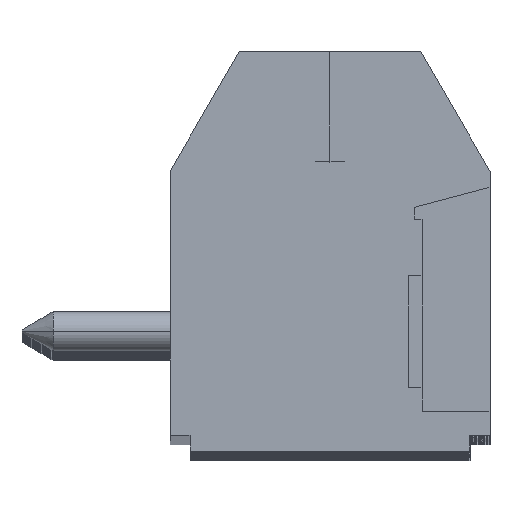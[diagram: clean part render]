
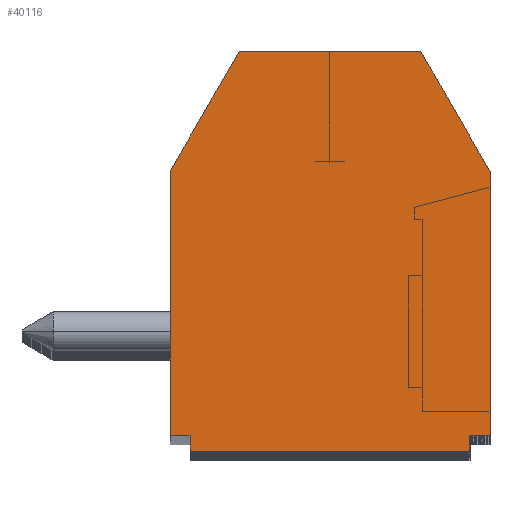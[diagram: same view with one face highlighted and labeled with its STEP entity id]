
A CAD part, top view. The second image highlights one B-rep face of the part: STEP entity #40116.
In plain terms, the highlighted planar face has unit normal (0, 0, 1).
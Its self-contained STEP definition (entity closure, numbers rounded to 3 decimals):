
#36840 = VERTEX_POINT ( 'NONE', #43477 ) ;
#36842 = EDGE_CURVE ( 'NONE', #36843, #36840, #43473, .T. ) ;
#36843 = VERTEX_POINT ( 'NONE', #43466 ) ;
#38117 = VERTEX_POINT ( 'NONE', #48336 ) ;
#38121 = EDGE_CURVE ( 'NONE', #36840, #38117, #48332, .T. ) ;
#38139 = VERTEX_POINT ( 'NONE', #48311 ) ;
#38247 = EDGE_CURVE ( 'NONE', #38117, #38139, #48470, .T. ) ;
#38260 = VERTEX_POINT ( 'NONE', #48440 ) ;
#38264 = EDGE_CURVE ( 'NONE', #38139, #38260, #48433, .T. ) ;
#38583 = VERTEX_POINT ( 'NONE', #48534 ) ;
#38698 = EDGE_CURVE ( 'NONE', #38583, #38713, #48628, .T. ) ;
#38713 = VERTEX_POINT ( 'NONE', #48592 ) ;
#38722 = VERTEX_POINT ( 'NONE', #48711 ) ;
#38726 = EDGE_CURVE ( 'NONE', #38713, #38722, #48707, .T. ) ;
#38816 = EDGE_CURVE ( 'NONE', #38260, #38583, #48776, .T. ) ;
#39864 = EDGE_CURVE ( 'NONE', #39865, #36843, #50014, .T. ) ;
#39865 = VERTEX_POINT ( 'NONE', #50004 ) ;
#39964 = EDGE_LOOP ( 'NONE', ( #39965, #40082, #40085, #40087, #40089, #40092, #40096, #40099, #40101, #40058 ) ) ;
#39965 = ORIENTED_EDGE ( 'NONE', *, *, #38264, .T. ) ;
#40058 = ORIENTED_EDGE ( 'NONE', *, *, #38247, .T. ) ;
#40082 = ORIENTED_EDGE ( 'NONE', *, *, #38816, .T. ) ;
#40085 = ORIENTED_EDGE ( 'NONE', *, *, #38698, .T. ) ;
#40087 = ORIENTED_EDGE ( 'NONE', *, *, #38726, .T. ) ;
#40089 = ORIENTED_EDGE ( 'NONE', *, *, #40090, .F. ) ;
#40090 = EDGE_CURVE ( 'NONE', #40091, #38722, #50065, .T. ) ;
#40091 = VERTEX_POINT ( 'NONE', #50058 ) ;
#40092 = ORIENTED_EDGE ( 'NONE', *, *, #40094, .F. ) ;
#40094 = EDGE_CURVE ( 'NONE', #39865, #40091, #50052, .T. ) ;
#40096 = ORIENTED_EDGE ( 'NONE', *, *, #39864, .T. ) ;
#40099 = ORIENTED_EDGE ( 'NONE', *, *, #36842, .T. ) ;
#40101 = ORIENTED_EDGE ( 'NONE', *, *, #38121, .T. ) ;
#40116 = ADVANCED_FACE ( 'NONE', ( #50045 ), #50040, .T. ) ;
#43466 = CARTESIAN_POINT ( 'NONE',  ( -3.062, -2.845, 0. ) ) ;
#43468 = DIRECTION ( 'NONE',  ( 0., -1., 0. ) ) ;
#43470 = VECTOR ( 'NONE', #43468, 1000. ) ;
#43472 = CARTESIAN_POINT ( 'NONE',  ( -3.062, -3.045, 0. ) ) ;
#43473 = LINE ( 'NONE', #43472, #43470 ) ;
#43477 = CARTESIAN_POINT ( 'NONE',  ( -3.062, -3.245, 0. ) ) ;
#48311 = CARTESIAN_POINT ( 'NONE',  ( 3.938, -2.845, 0. ) ) ;
#48327 = DIRECTION ( 'NONE',  ( 1., 0., 0. ) ) ;
#48329 = VECTOR ( 'NONE', #48327, 1000. ) ;
#48331 = CARTESIAN_POINT ( 'NONE',  ( 0.438, -3.245, 0. ) ) ;
#48332 = LINE ( 'NONE', #48331, #48329 ) ;
#48336 = CARTESIAN_POINT ( 'NONE',  ( 3.938, -3.245, 0. ) ) ;
#48429 = DIRECTION ( 'NONE',  ( 1., 0., 0. ) ) ;
#48430 = VECTOR ( 'NONE', #48429, 1000. ) ;
#48431 = CARTESIAN_POINT ( 'NONE',  ( 0.438, -2.845, 0. ) ) ;
#48433 = LINE ( 'NONE', #48431, #48430 ) ;
#48440 = CARTESIAN_POINT ( 'NONE',  ( 4.438, -2.845, 0. ) ) ;
#48464 = DIRECTION ( 'NONE',  ( 0., 1., 0. ) ) ;
#48466 = VECTOR ( 'NONE', #48464, 1000. ) ;
#48468 = CARTESIAN_POINT ( 'NONE',  ( 3.938, 1.755, 0. ) ) ;
#48470 = LINE ( 'NONE', #48468, #48466 ) ;
#48534 = CARTESIAN_POINT ( 'NONE',  ( 4.438, 3.755, 0. ) ) ;
#48592 = CARTESIAN_POINT ( 'NONE',  ( 2.706, 6.755, 0. ) ) ;
#48621 = DIRECTION ( 'NONE',  ( -0.5, 0.866, 0. ) ) ;
#48623 = VECTOR ( 'NONE', #48621, 1000. ) ;
#48625 = CARTESIAN_POINT ( 'NONE',  ( 4.438, 3.755, 0. ) ) ;
#48628 = LINE ( 'NONE', #48625, #48623 ) ;
#48703 = DIRECTION ( 'NONE',  ( -1., 0., 0. ) ) ;
#48705 = VECTOR ( 'NONE', #48703, 1000. ) ;
#48706 = CARTESIAN_POINT ( 'NONE',  ( -3.562, 6.755, 0. ) ) ;
#48707 = LINE ( 'NONE', #48706, #48705 ) ;
#48711 = CARTESIAN_POINT ( 'NONE',  ( -1.83, 6.755, 0. ) ) ;
#48771 = DIRECTION ( 'NONE',  ( 0., 1., 0. ) ) ;
#48772 = VECTOR ( 'NONE', #48771, 1000. ) ;
#48774 = CARTESIAN_POINT ( 'NONE',  ( 4.438, -3.245, 0. ) ) ;
#48776 = LINE ( 'NONE', #48774, #48772 ) ;
#50004 = CARTESIAN_POINT ( 'NONE',  ( -3.562, -2.845, 0. ) ) ;
#50006 = DIRECTION ( 'NONE',  ( 1., 0., 0. ) ) ;
#50008 = VECTOR ( 'NONE', #50006, 1000. ) ;
#50010 = CARTESIAN_POINT ( 'NONE',  ( -3.562, -2.845, 0. ) ) ;
#50014 = LINE ( 'NONE', #50010, #50008 ) ;
#50034 = DIRECTION ( 'NONE',  ( 1., 0., 0. ) ) ;
#50036 = DIRECTION ( 'NONE',  ( 0., 0., 1. ) ) ;
#50037 = CARTESIAN_POINT ( 'NONE',  ( -3.562, -3.245, 0. ) ) ;
#50038 = AXIS2_PLACEMENT_3D ( 'NONE', #50037, #50036, #50034 ) ;
#50040 = PLANE ( 'NONE',  #50038 ) ;
#50045 = FACE_OUTER_BOUND ( 'NONE', #39964, .T. ) ;
#50047 = DIRECTION ( 'NONE',  ( 0., 1., 0. ) ) ;
#50049 = VECTOR ( 'NONE', #50047, 1000. ) ;
#50050 = CARTESIAN_POINT ( 'NONE',  ( -3.562, 0.455, 0. ) ) ;
#50052 = LINE ( 'NONE', #50050, #50049 ) ;
#50058 = CARTESIAN_POINT ( 'NONE',  ( -3.562, 3.755, 0. ) ) ;
#50060 = DIRECTION ( 'NONE',  ( 0.5, 0.866, 0. ) ) ;
#50061 = VECTOR ( 'NONE', #50060, 1000. ) ;
#50064 = CARTESIAN_POINT ( 'NONE',  ( -2.696, 5.255, 0. ) ) ;
#50065 = LINE ( 'NONE', #50064, #50061 ) ;
